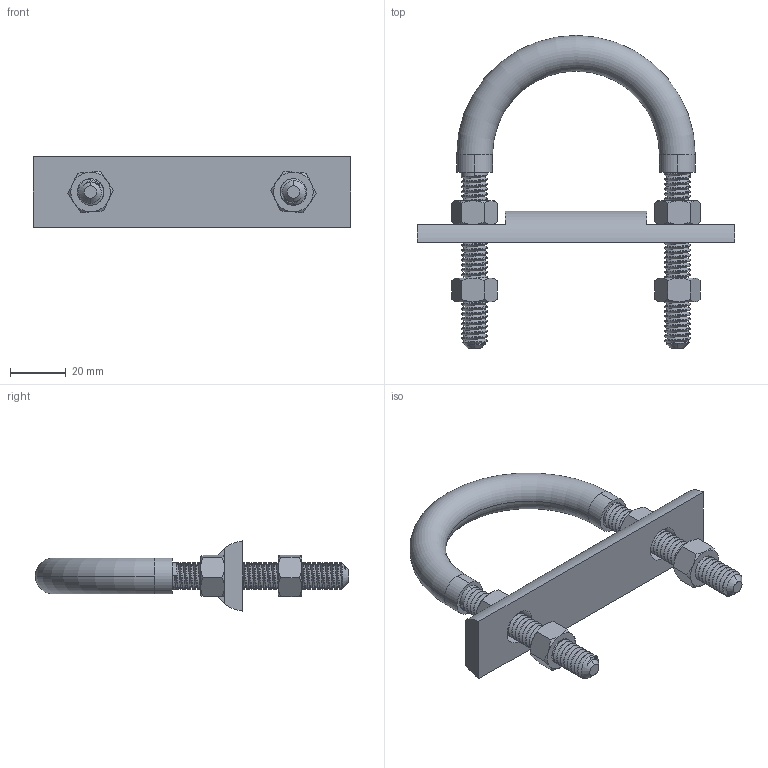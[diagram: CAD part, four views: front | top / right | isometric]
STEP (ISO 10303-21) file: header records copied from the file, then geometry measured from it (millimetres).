
FILE_DESCRIPTION (( 'STEP AP214' ), '1' );
FILE_NAME ('NUB1463.STEP', '2022-04-04T16:00:03', ( '' ), ( '' ), 'SwSTEP 2.0', 'SolidWorks 2021', '' );
FILE_SCHEMA (( 'AUTOMOTIVE_DESIGN' ));
Length unit declared in the file: inch
Products named in the file (4): ROD0637_IR08-1.5 [ROD0637]; NUB1463; UBT0990_UBT8-1.5-0.375-16 XL [NUB1463]; FAS0045
Assembly tree (6 placements, depth 2):
  NUB1463
    FAS0045  x4
    UBT0990_UBT8-1.5-0.375-16 XL [NUB1463]
    ROD0637_IR08-1.5 [ROD0637]
Bounding box: 114.3 x 112.81 x 25.27 mm (x, y, z)
Volume: 46232.4 mm3; surface area: 30037.4 mm2
Topology: 7 solids, 7 shells, 292 faces, 762 edges, 484 vertices
Faces by surface type: cylinder 167, cone 70, plane 45, torus 6, bspline 4
Entity records: 16867 total; most frequent: CARTESIAN_POINT 11961, ORIENTED_EDGE 1164, DIRECTION 774, EDGE_CURVE 582, VERTEX_POINT 382, AXIS2_PLACEMENT_3D 293, EDGE_LOOP 216, FACE_OUTER_BOUND 208
